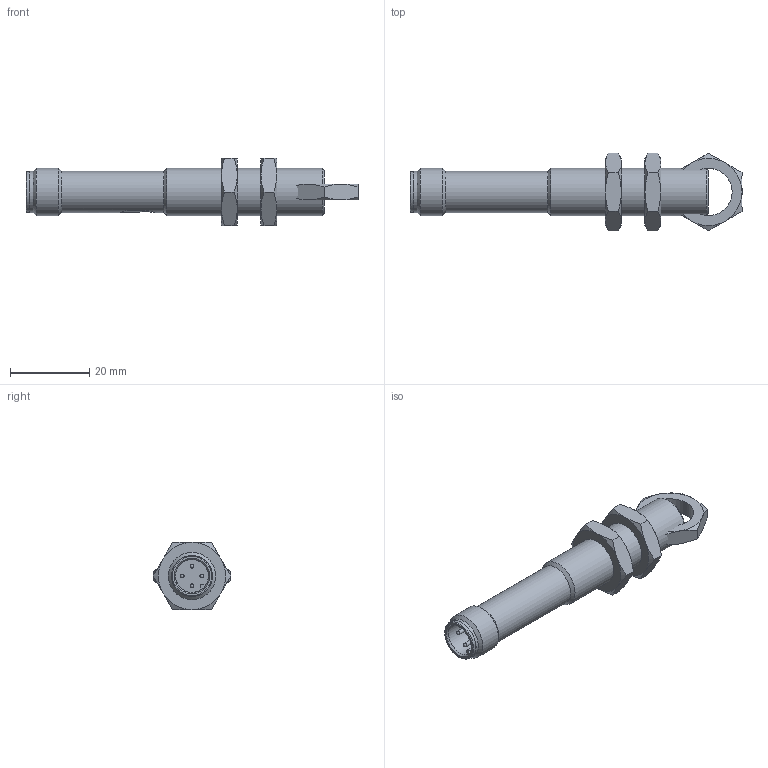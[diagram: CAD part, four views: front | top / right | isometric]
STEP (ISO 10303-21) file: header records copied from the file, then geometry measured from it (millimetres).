
FILE_DESCRIPTION( ( 'Unknown' ), '1' );
FILE_NAME( '//baumerholding.org/frauenfeld/bereich/BECH/Services/me_CAD/Solid Edge/Models/Dokumentationen/Kapazitiv/CFAx 12/Vereinfachte Modelle/Neutralformate/CFAM_12_Pot_S14.stp', 'Unknown', ( 'Unknown' ), ( 'Unknown' ), 'XStep 1.0', 'Unknown', ' ' );
FILE_SCHEMA( ( 'CONFIG_CONTROL_DESIGN' ) );
Length unit declared in the file: millimetre
Products named in the file (3): Assem1; 101472; CFAM_12_Pot_S14_oA
Bounding box: 84 x 19.63 x 17 mm (x, y, z)
Volume: 16101.9 mm3; surface area: 8416.3 mm2
Topology: 5 solids, 5 shells, 145 faces, 337 edges, 202 vertices
Faces by surface type: plane 50, cone 46, cylinder 39, sphere 8, torus 2
Full cylindrical faces by diameter (mm): 1 x8, 3 x2, 8.35 x2, 10 x2, 10.3 x2, 10.4 x4, 12 x7
Entity records: 1896 total; most frequent: CARTESIAN_POINT 557, DIRECTION 252, ORIENTED_EDGE 212, AXIS2_PLACEMENT_3D 113, EDGE_CURVE 106, EDGE_LOOP 92, FACE_OUTER_BOUND 76, VERTEX_POINT 76
